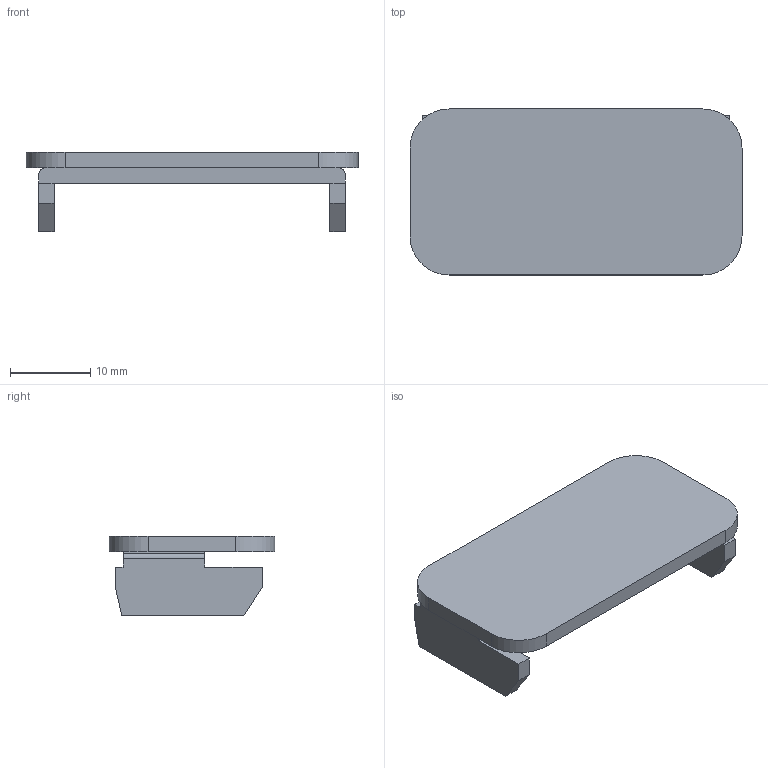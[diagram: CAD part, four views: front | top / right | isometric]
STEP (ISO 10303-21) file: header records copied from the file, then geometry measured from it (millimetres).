
FILE_DESCRIPTION(('TurboCAD Mac Pro'),'Build 980');
FILE_NAME('P4280.stp',' ',(''),(''),'ACIS Interop','IMSI','TurboCAD Mac Pro BY IMSI, INCORPORATED');
FILE_SCHEMA(('automotive_design'));
Length unit declared in the file: inch
Products named in the file (1): 1
Bounding box: 41.27 x 20.64 x 9.84 mm (x, y, z)
Volume: 2717.4 mm3; surface area: 2610 mm2
Topology: 1 solids, 1 shells, 39 faces, 108 edges, 72 vertices
Faces by surface type: plane 27, cylinder 8, bspline 4
Entity records: 1968 total; most frequent: CARTESIAN_POINT 272, ORIENTED_EDGE 216, DIRECTION 188, STYLED_ITEM 114, PRESENTATION_STYLE_ASSIGNMENT 114, COLOUR_RGB 114, EDGE_CURVE 108, LINE 84
